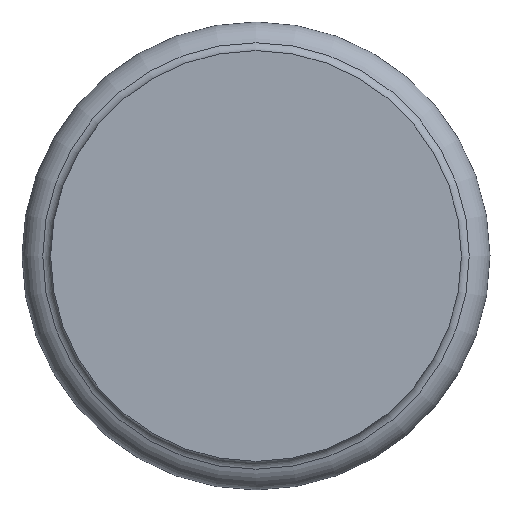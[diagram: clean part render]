
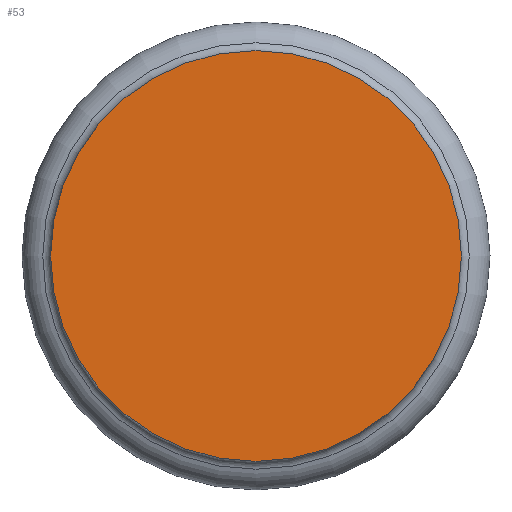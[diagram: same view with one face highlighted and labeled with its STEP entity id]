
A CAD part, front view. The second image highlights one B-rep face of the part: STEP entity #53.
In plain terms, the highlighted planar face has unit normal (0, -1, 0).
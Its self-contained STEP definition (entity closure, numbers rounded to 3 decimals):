
#53=ADVANCED_FACE('',(#82),#84,.F.);
#82=FACE_BOUND('',#83,.T.);
#83=EDGE_LOOP('',(#307));
#84=PLANE('',#85);
#85=AXIS2_PLACEMENT_3D('',#86,#87,#88);
#86=CARTESIAN_POINT('',(0.,0.,0.));
#87=DIRECTION('',(0.,1.,0.));
#88=DIRECTION('',(-1.,0.,0.));
#307=ORIENTED_EDGE('',*,*,#431,.F.);
#431=EDGE_CURVE('',#493,#493,#494,.T.);
#493=VERTEX_POINT('',#601);
#494=CIRCLE('',#602,28.7);
#601=CARTESIAN_POINT('',(0.,0.,28.7));
#602=AXIS2_PLACEMENT_3D('',#603,#604,#605);
#603=CARTESIAN_POINT('',(0.,0.,0.));
#604=DIRECTION('',(0.,1.,0.));
#605=DIRECTION('',(0.,0.,1.));
